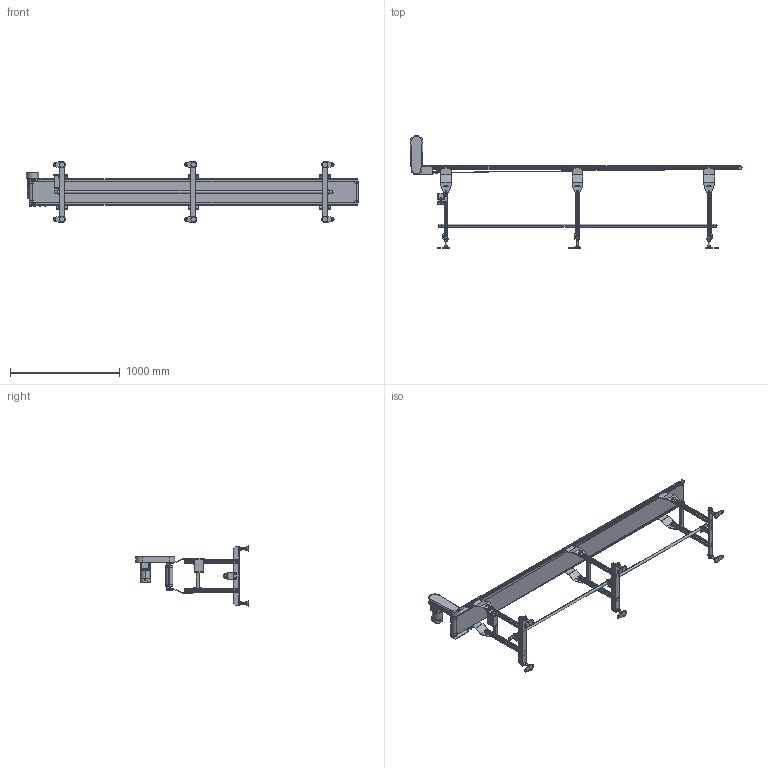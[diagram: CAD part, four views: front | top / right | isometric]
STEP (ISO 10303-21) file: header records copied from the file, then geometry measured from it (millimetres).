
FILE_DESCRIPTION (( 'STEP AP214' ), '1' );
FILE_NAME ('MB21-OD-200-3000-L.STEP', '2023-07-10T23:26:41', ( '' ), ( '' ), 'SwSTEP 2.0', 'SolidWorks 2017', '' );
FILE_SCHEMA (( 'AUTOMOTIVE_DESIGN' ));
Length unit declared in the file: millimetre
Products named in the file (1): MB21-OD-200-3000-L
Bounding box: 3029.3 x 1029 x 560.98 mm (x, y, z)
Volume: 15305936.2 mm3; surface area: 6928003 mm2
Topology: 49 solids, 49 shells, 2574 faces, 6490 edges, 4205 vertices
Faces by surface type: plane 1843, cylinder 587, cone 72, bspline 44, torus 22, sphere 6
Entity records: 79429 total; most frequent: CARTESIAN_POINT 16078, ORIENTED_EDGE 12924, DIRECTION 12816, EDGE_CURVE 6462, VECTOR 4912, LINE 4912, VERTEX_POINT 4205, AXIS2_PLACEMENT_3D 3952
